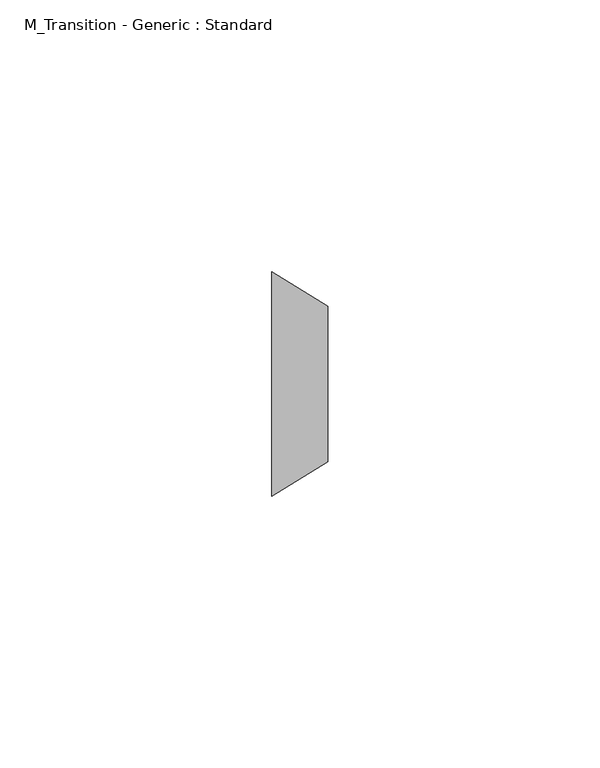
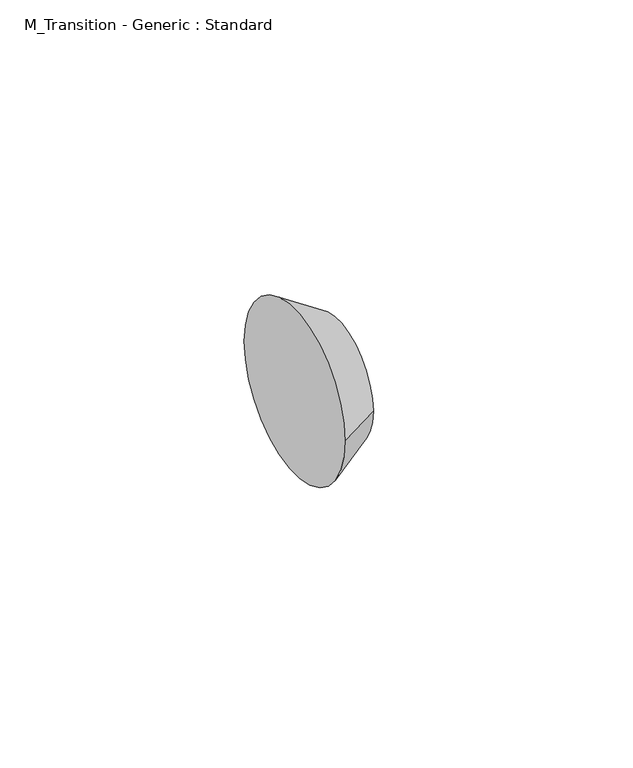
"""IFC4 building model written with IfcOpenShell, lengths in millimetres: pipe fitting geometry, M_Transition - Generic : Standard."""

from ifc_helpers import new_model, si_unit, frame, origin, place, context, project, spatial, polyline, circle_curve, source, transform, mapped, element, save
from ifc_brep_helpers import plane_surface, revolved_surface, advanced_brep


def m_transition_generic_standard_75be8432(model_context):
    return source(origin(), model_context, "Body", "AdvancedBrep", [
        advanced_brep(
        [(10.31875, -14.2875, 0.0), (10.31875, 14.2875, 0.0), (0.0, -20.6375, 0.0), (0.0, 20.6375, 0.0)],
        [
            (0, 1, circle_curve(frame((10.31875, 0.0, 0.0), z_axis=(1.0, 0.0, 0.0), x_axis=(0.0, -1.0, 0.0)), 14.2875)),
            (1, 0, circle_curve(frame((10.31875, 0.0, 0.0), z_axis=(1.0, 0.0, 0.0), x_axis=(0.0, 1.0, 0.0)), 14.2875)),
            (2, 3, circle_curve(frame((0.0, 0.0, 0.0), z_axis=(-1.0, 0.0, 0.0), x_axis=(0.0, 1.0, 0.0)), 20.6375)),
            (3, 2, circle_curve(frame((0.0, 0.0, 0.0), z_axis=(-1.0, 0.0, 0.0), x_axis=(0.0, -1.0, 0.0)), 20.6375)),
            (3, 1),
            (0, 2),
        ],
        [
            plane_surface(frame((10.31875, 0.0, 0.0), z_axis=(1.0, 0.0, 0.0), x_axis=(0.0, 0.0, -1.0))),
            plane_surface(frame((0.0, 0.0, 0.0), z_axis=(-1.0, 0.0, 0.0), x_axis=(0.0, 0.0, -1.0))),
            revolved_surface(polyline([(10.318750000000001, -14.2875, 0.0), (0.0, -20.6375, 0.0)]), (33.5359375, 0.0, 0.0), (-1.0, 0.0, 0.0)),
            revolved_surface(polyline([(10.318750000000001, 14.2875, 0.0), (0.0, 20.6375, 0.0)]), (33.5359375, 0.0, 0.0), (-1.0, 0.0, 0.0)),
        ],
        [
            (0, [[1, 2]]),
            (1, [[3, 4]]),
            (2, [[-4, 5, -1, 6]]),
            (3, [[-3, -6, -2, -5]]),
        ],
    ),
    ])


if __name__ == "__main__":
    model = new_model("IFC4")
    model_context = context("Model", 3, world=origin())
    ifc_project = project(units=[si_unit("LENGTHUNIT", "METRE", prefix="MILLI")], contexts=[model_context])
    site = spatial("IfcSite", under=ifc_project)
    building = spatial("IfcBuilding", under=site)
    placement = place(None, origin())
    m_transition_generic_standard_shape = m_transition_generic_standard_75be8432(model_context)
    element("IfcPipeFitting", 1, ObjectType="M_Transition - Generic : Standard", at=placement, inside=building, context=model_context, shape_type="MappedRepresentation", body=[
        mapped(m_transition_generic_standard_shape, transform((0.0, 0.0, 0.0), x_axis=(1.0, 0.0, 0.0), y_axis=(0.0, 1.0, 0.0), z_axis=(0.0, 0.0, 1.0))),
    ])
    save(model, "model.ifc")
